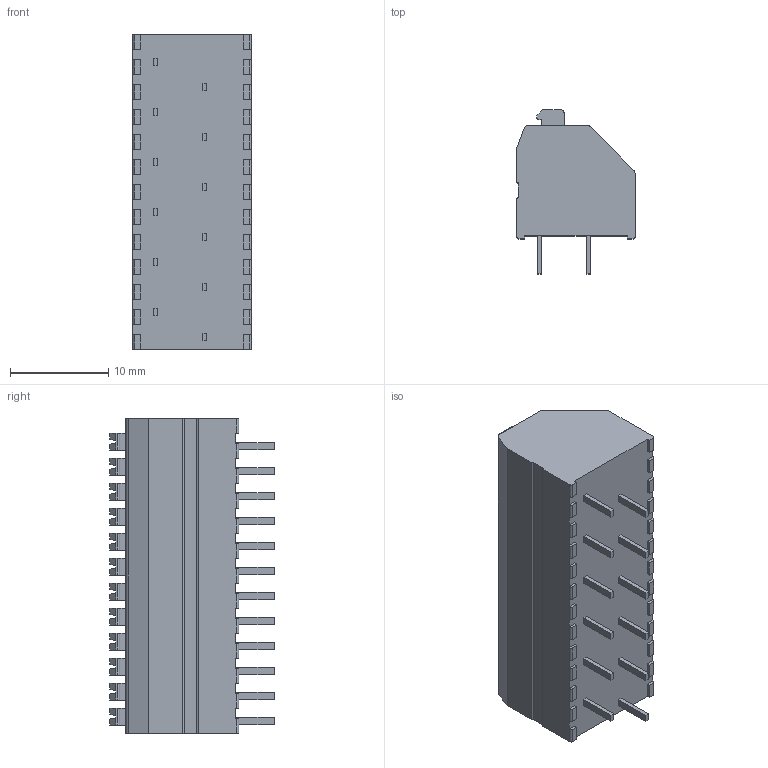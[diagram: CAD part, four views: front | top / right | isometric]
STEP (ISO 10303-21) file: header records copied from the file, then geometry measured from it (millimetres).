
FILE_DESCRIPTION(/* description */ ('STEP AP214'),/* implementation_level */ '2;1');
FILE_NAME(/* name */ '250-1412',/* time_stamp */ '2022-10-03T17:47:50+02:00',/* author */ ('License CC BY-ND 4.0'),/* organization */ ('CADENAS'),/* preprocessor_version */ 'ST-DEVELOPER v18.102',/* originating_system */ 'PARTsolutions',/* authorisation */ ' ');
FILE_SCHEMA (('AUTOMOTIVE_DESIGN {1 0 10303 214 3 1 1}'));
Length unit declared in the file: millimetre
Products named in the file (1): 250-1412
Bounding box: 12 x 16.7 x 31.98 mm (x, y, z)
Volume: 3888.6 mm3; surface area: 2064.7 mm2
Topology: 1 solids, 1 shells, 549 faces, 1497 edges, 974 vertices
Faces by surface type: plane 422, cylinder 103, cone 24
Entity records: 17183 total; most frequent: CARTESIAN_POINT 3021, ORIENTED_EDGE 2994, DIRECTION 2875, EDGE_CURVE 1497, LINE 1219, VECTOR 1219, VERTEX_POINT 974, AXIS2_PLACEMENT_3D 828
